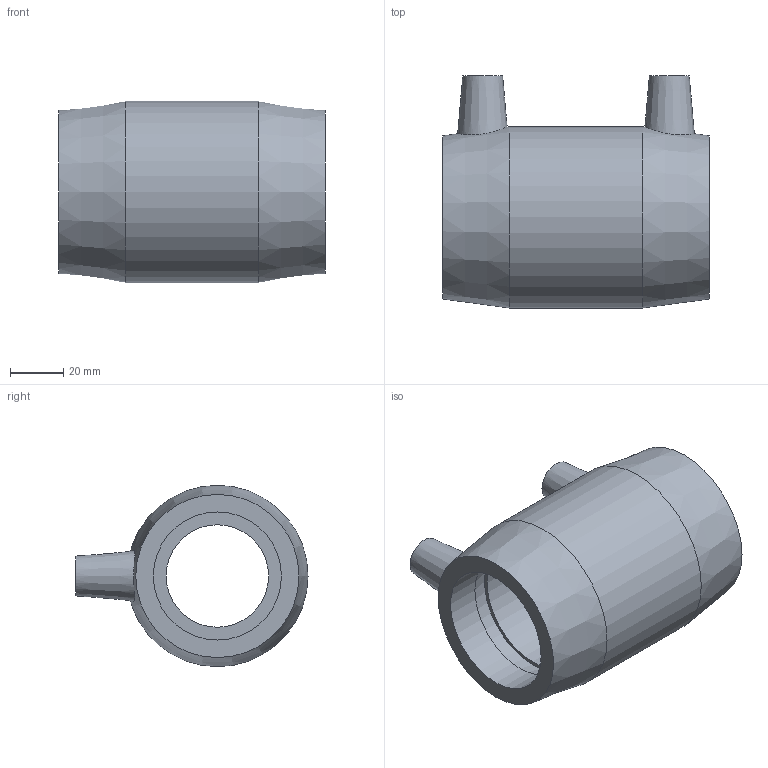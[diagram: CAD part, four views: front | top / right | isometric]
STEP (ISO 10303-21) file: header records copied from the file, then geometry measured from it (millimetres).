
FILE_DESCRIPTION(/* description */ ('PLASSON IPS COUPLER 1 1/2'''''),/* implementation_level */ '2;1');
FILE_NAME(/* name */ 'C:\Dropbox\KIMPROJECTS-Inventor 2019\99-16-3568-Processing Inch\ASTM ElectroFusion 2021\5901B\5901B004015.ipt.stp',/* time_stamp */ '2021-08-30T09:48:54+03:00',/* author */ ('KIM'),/* organization */ (''),/* preprocessor_version */ 'ST-DEVELOPER v17.2',/* originating_system */ 'Autodesk Inventor 2019',/* authorisation */ '');
FILE_SCHEMA (('AUTOMOTIVE_DESIGN { 1 0 10303 214 3 1 1 }'));
Length unit declared in the file: inch
Products named in the file (1): 5901B004015
Bounding box: 100.08 x 87.12 x 68.07 mm (x, y, z)
Volume: 172721.3 mm3; surface area: 43281.5 mm2
Topology: 1 solids, 1 shells, 28 faces, 62 edges, 46 vertices
Faces by surface type: plane 12, cylinder 10, cone 6
Full cylindrical faces by diameter (mm): 4 x2, 10 x2, 38.48 x1, 48.1 x4, 68.072 x1
Entity records: 927 total; most frequent: CARTESIAN_POINT 205, DIRECTION 158, ORIENTED_EDGE 124, AXIS2_PLACEMENT_3D 71, EDGE_CURVE 62, VERTEX_POINT 46, CIRCLE 42, EDGE_LOOP 40
